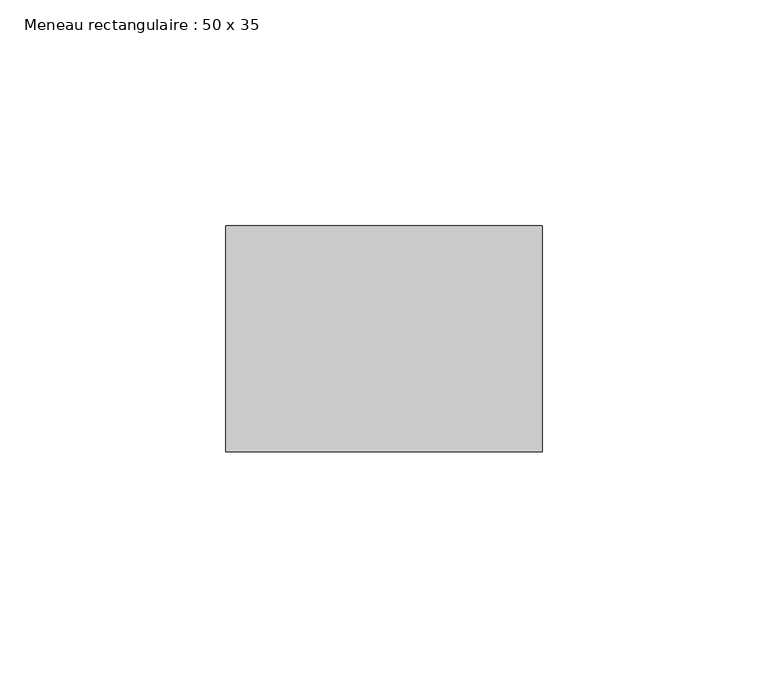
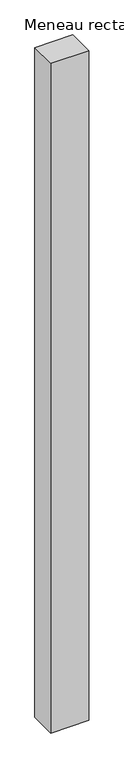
"""IFC4 building model written with IfcOpenShell, lengths in millimetres: member geometry, Meneau rectangulaire : 50 x 35."""

import ifcopenshell
import ifcopenshell.guid

model = None  # the IFC model being written
_history = None  # IfcOwnerHistory: only IFC2X3 demands one
_inside = {}  # id of a spatial element -> (the spatial element, [elements in it])
_under = {}  # id of a project, library or spatial element -> (it, [spatial elements below it])
_declared = {}  # id of a project -> (the project, [libraries it declares])
_typed = {}  # id of a type object -> (the type object, [elements of that type])
_made_of = {}  # id of a material, layer set ... -> (it, [elements and type objects made of it])


def new_model(schema):
    """Start an empty IFC model of exactly this schema.

    Asked for "IFC4X3", IfcOpenShell would pick the latest addendum, in which some entities
    have other attributes; the version numbers below select the first issue.
    IFC2X3 requires an IfcOwnerHistory on every rooted entity: one is made here for all.
    """
    global model, _history
    if schema == "IFC4X3":
        model = ifcopenshell.file(schema_version=(4, 3, 0, 0))
    else:
        model = ifcopenshell.file(schema=schema)
    _inside.clear()
    _under.clear()
    _declared.clear()
    _typed.clear()
    _made_of.clear()
    _history = None
    if model.schema == "IFC2X3":
        org = make("IfcOrganization", Name="unknown")
        user = make(
            "IfcPersonAndOrganization",
            ThePerson=make("IfcPerson", FamilyName="unknown"),
            TheOrganization=org,
        )
        app = make(
            "IfcApplication",
            ApplicationDeveloper=org,
            Version="unknown",
            ApplicationFullName="unknown",
            ApplicationIdentifier="unknown",
        )
        _history = make(
            "IfcOwnerHistory",
            OwningUser=user,
            OwningApplication=app,
            ChangeAction="ADDED",
            CreationDate=0,
        )
    return model


def make(cls, **values):
    """One entity of the class cls with the attributes given. An attribute that is None is left unset."""
    return model.create_entity(
        cls, **{name: value for name, value in values.items() if value is not None}
    )


def rooted(cls, **values):
    """An entity with a GlobalId (a new one), such as an element, a storey or a relation."""
    return make(cls, GlobalId=ifcopenshell.guid.new(), OwnerHistory=_history, **values)


def si_unit(unit_type, name, prefix=None):
    """IfcSIUnit, for example si_unit("LENGTHUNIT", "METRE", prefix="MILLI")."""
    return make("IfcSIUnit", UnitType=unit_type, Prefix=prefix, Name=name)


def assignment(units):
    """IfcUnitAssignment: the units of a project."""
    return None if units is None else make("IfcUnitAssignment", Units=units)


def point(xyz):
    """IfcCartesianPoint."""
    return None if xyz is None else make("IfcCartesianPoint", Coordinates=xyz)


def direction(xyz):
    """IfcDirection."""
    return None if xyz is None else make("IfcDirection", DirectionRatios=xyz)


def frame(location, z_axis=None, x_axis=None):
    """IfcAxis2Placement3D, a coordinate frame: its origin and axes. An axis left out is left unset."""
    return make(
        "IfcAxis2Placement3D",
        Location=point(location),
        Axis=direction(z_axis),
        RefDirection=direction(x_axis),
    )


def origin():
    """The frame at (0, 0, 0) with its axes left unset."""
    return frame((0.0, 0.0, 0.0))


def place(relative_to, where):
    """IfcLocalPlacement: puts the frame where relative to a parent placement (None: the world)."""
    return make(
        "IfcLocalPlacement", PlacementRelTo=relative_to, RelativePlacement=where
    )


def context(
    kind, dimensions, precision=None, world=None, true_north=None, identifier=None
):
    """IfcGeometricRepresentationContext, for example the 3D "Model" context."""
    return make(
        "IfcGeometricRepresentationContext",
        ContextIdentifier=identifier,
        ContextType=kind,
        CoordinateSpaceDimension=dimensions,
        Precision=precision,
        WorldCoordinateSystem=world,
        TrueNorth=true_north,
    )


def project(units=None, contexts=None):
    """IfcProject with its units and contexts."""
    return rooted(
        "IfcProject",
        Name="project",
        RepresentationContexts=contexts,
        UnitsInContext=assignment(units),
    )


def spatial(cls, under=None, at=None, **own):
    """A site, building, storey or space (cls), placed at a placement, below another one or the project."""
    s = rooted(cls, ObjectPlacement=at, **own)
    if under is not None:
        _under.setdefault(under.id(), (under, []))[1].append(s)
    return s


def polyline(points):
    """IfcPolyline through the points."""
    return make("IfcPolyline", Points=[point(p) for p in points])


def outline(outer, holes=None, kind="AREA"):
    """IfcArbitraryClosedProfileDef: a profile drawn as a closed curve; with holes, ...WithVoids."""
    if holes is None:
        return make("IfcArbitraryClosedProfileDef", ProfileType=kind, OuterCurve=outer)
    return make(
        "IfcArbitraryProfileDefWithVoids",
        ProfileType=kind,
        OuterCurve=outer,
        InnerCurves=holes,
    )


def extrude(swept, where, along, depth):
    """IfcExtrudedAreaSolid: the profile swept, set in the frame where, extruded along a direction by depth."""
    return make(
        "IfcExtrudedAreaSolid",
        SweptArea=swept,
        Position=where,
        ExtrudedDirection=direction(along),
        Depth=depth,
    )


def shape(context_of_items, identifier, shape_type, items):
    """IfcShapeRepresentation: the items that make up one representation, for example the "Body"."""
    return make(
        "IfcShapeRepresentation",
        ContextOfItems=context_of_items,
        RepresentationIdentifier=identifier,
        RepresentationType=shape_type,
        Items=items,
    )


def source(mapping_origin, context_of_items, identifier, shape_type, items):
    """IfcRepresentationMap: a shape defined once, which mapped items show again and again."""
    return make(
        "IfcRepresentationMap",
        MappingOrigin=mapping_origin,
        MappedRepresentation=shape(context_of_items, identifier, shape_type, items),
    )


def transform(
    local_origin,
    x_axis=None,
    y_axis=None,
    z_axis=None,
    scale=None,
    scale2=None,
    scale3=None,
    uniform=True,
):
    """IfcCartesianTransformationOperator3D, or its non-uniform kind. x_axis, y_axis, z_axis: its Axis1, 2, 3."""
    if uniform:
        return make(
            "IfcCartesianTransformationOperator3D",
            Axis1=direction(x_axis),
            Axis2=direction(y_axis),
            LocalOrigin=point(local_origin),
            Scale=scale,
            Axis3=direction(z_axis),
        )
    return make(
        "IfcCartesianTransformationOperator3DnonUniform",
        Axis1=direction(x_axis),
        Axis2=direction(y_axis),
        LocalOrigin=point(local_origin),
        Scale=scale,
        Axis3=direction(z_axis),
        Scale2=scale2,
        Scale3=scale3,
    )


def mapped(mapping_source, mapping_target):
    """IfcMappedItem: shows the shape of a source again, moved by a transform."""
    return make(
        "IfcMappedItem", MappingSource=mapping_source, MappingTarget=mapping_target
    )


def made_of(thing, what):
    """Note that an element or type object is made of a material, layer set ...; save() writes the relation."""
    if what is not None:
        _made_of.setdefault(what.id(), (what, []))[1].append(thing)
    return thing


def element(
    cls,
    number,
    at=None,
    inside=None,
    cuts=None,
    type_object=None,
    material=None,
    context=None,
    identifier="Body",
    shape_type=None,
    held_by="IfcProductDefinitionShape",
    body=None,
    shapes=None,
    **own,
):
    """One element of the class cls, such as IfcWall. Its Tag is "e" and its number.

    at: its placement. inside: the storey or other place that contains it. cuts: it is an
    opening in that element (IfcRelVoidsElement). A single representation is given by context,
    identifier, shape_type and body (its items); several are given by shapes. held_by: the class
    of the entity that holds the representations. save() writes the other relations.
    """
    e = rooted(cls, Tag="e%d" % number, ObjectPlacement=at, **own)
    if body is not None:
        shapes = [shape(context, identifier, shape_type, body)]
    if shapes is not None:
        e.Representation = make(held_by, Representations=shapes)
    if inside is not None:
        _inside.setdefault(inside.id(), (inside, []))[1].append(e)
    if cuts is not None:
        rooted(
            "IfcRelVoidsElement", RelatingBuildingElement=cuts, RelatedOpeningElement=e
        )
    if type_object is not None:
        _typed.setdefault(type_object.id(), (type_object, []))[1].append(e)
    return made_of(e, material)


def aggregate(whole, parts):
    """IfcRelAggregates: a whole, such as a stair, and the parts it consists of."""
    return rooted("IfcRelAggregates", RelatingObject=whole, RelatedObjects=parts)


def save(model, path):
    """Write the relations noted so far, then the file.

    IfcRelAggregates (storeys below a building ...), IfcRelContainedInSpatialStructure (elements
    in a storey), IfcRelDefinesByType, IfcRelAssociatesMaterial and IfcRelDeclares: one each for
    every whole, place, type object, material and project.
    """
    for whole, parts in _under.values():
        aggregate(whole, parts)
    for where, things in _inside.values():
        rooted(
            "IfcRelContainedInSpatialStructure",
            RelatedElements=things,
            RelatingStructure=where,
        )
    for kind, things in _typed.values():
        rooted("IfcRelDefinesByType", RelatedObjects=things, RelatingType=kind)
    for what, things in _made_of.values():
        rooted("IfcRelAssociatesMaterial", RelatedObjects=things, RelatingMaterial=what)
    for by, libraries in _declared.values():
        rooted("IfcRelDeclares", RelatingContext=by, RelatedDefinitions=libraries)
    model.write(path)


def meneau_rectangulaire_50_x_35_9ba57ac7(model_context):
    return source(origin(), model_context, "Body", "SweptSolid", [
        extrude(outline(polyline([(0.0, 0.0), (0.0, -50.0), (-70.0, -50.0), (-70.0, 0.0), (0.0, 0.0)])), frame((0.0, 0.0, -1302.7245593), z_axis=(0.0, 0.0, 1.0), x_axis=(1.0, 0.0, 0.0)), (0.0, 0.0, 1.0), 1302.7245593),
    ])


if __name__ == "__main__":
    model = new_model("IFC4")
    model_context = context("Model", 3, world=origin())
    ifc_project = project(units=[si_unit("LENGTHUNIT", "METRE", prefix="MILLI")], contexts=[model_context])
    site = spatial("IfcSite", under=ifc_project)
    building = spatial("IfcBuilding", under=site)
    placement = place(None, origin())
    meneau_rectangulaire_50_x_35_shape = meneau_rectangulaire_50_x_35_9ba57ac7(model_context)
    element("IfcMember", 1, ObjectType="Meneau rectangulaire : 50 x 35", at=placement, inside=building, context=model_context, shape_type="MappedRepresentation", body=[
        mapped(meneau_rectangulaire_50_x_35_shape, transform((0.0, 0.0, 0.0), x_axis=(1.0, 0.0, 0.0), y_axis=(0.0, 1.0, 0.0), z_axis=(0.0, 0.0, 1.0))),
    ])
    save(model, "model.ifc")
